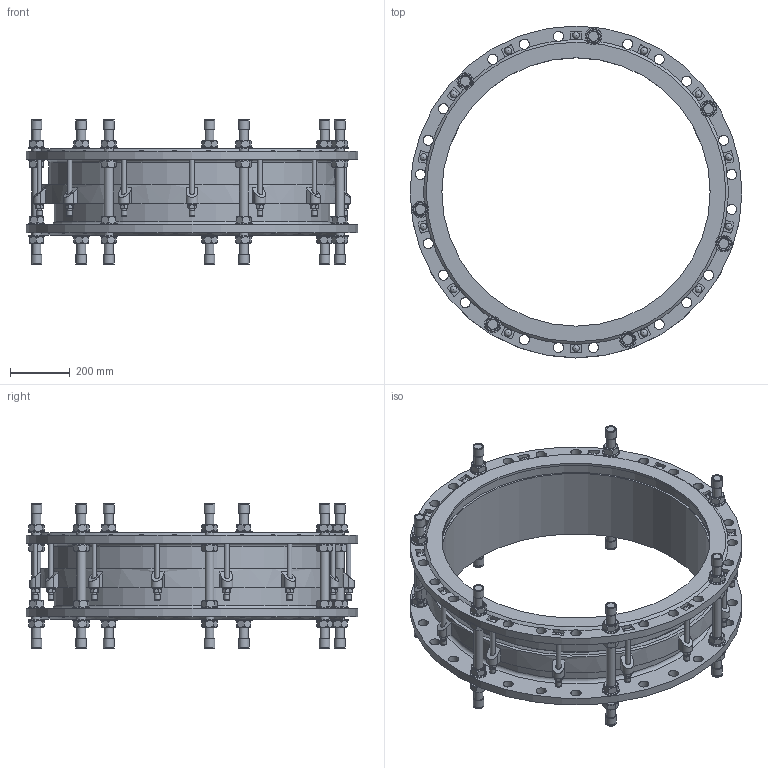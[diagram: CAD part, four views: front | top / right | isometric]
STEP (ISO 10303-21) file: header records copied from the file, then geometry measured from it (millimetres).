
FILE_DESCRIPTION(('STEP AP242'), '1');
FILE_NAME('Ìîíòàæíàÿ âñòàâêà', '', ('UNSPECIFIED'), ('UNSPECIFIED'), 'C3D Converter', 'C3D Toolkit', '');
FILE_SCHEMA(('AP242_MANAGED_MODEL_BASED_3D_ENGINEERING_MIM_LF { 1 0 10303 442 1 1 4 }'));
Length unit declared in the file: millimetre
Products named in the file (13): ШМ.М16.310
Assembly tree (137 placements, depth 2):
  (unnamed)
    (unnamed)
    (unnamed)
    (unnamed)
    (unnamed)  x28
    (unnamed)  x28
    ШМ.М16.310  x7
    (unnamed)  x14
    (unnamed)
    (unnamed)  x14
    (unnamed)  x14
    (unnamed)  x14
    (unnamed)  x14
Bounding box: 1113 x 1113 x 486 mm (x, y, z)
Volume: 41636235.6 mm3; surface area: 5823712.2 mm2
Topology: 137 solids, 137 shells, 1522 faces, 3454 edges, 2193 vertices
Faces by surface type: plane 900, cylinder 365, cone 202, torus 30, sphere 14, extrusion 11
Full cylindrical faces by diameter (mm): 16 x42, 17 x14, 18 x14, 19.2 x14, 30 x63, 31 x28, 33.221 x1, 34 x56, 36 x14, 56 x28, 900 x2, 924 x2, 936 x2, 960 x1, 984 x1, 992 x1, 1016 x1, 1113 x2
Entity records: 30895 total; most frequent: CARTESIAN_POINT 14531, DIRECTION 2734, ORIENTED_EDGE 2486, EDGE_CURVE 1243, AXIS2_PLACEMENT_3D 1084, VERTEX_POINT 896, EDGE_LOOP 735, FACE_BOUND 569
